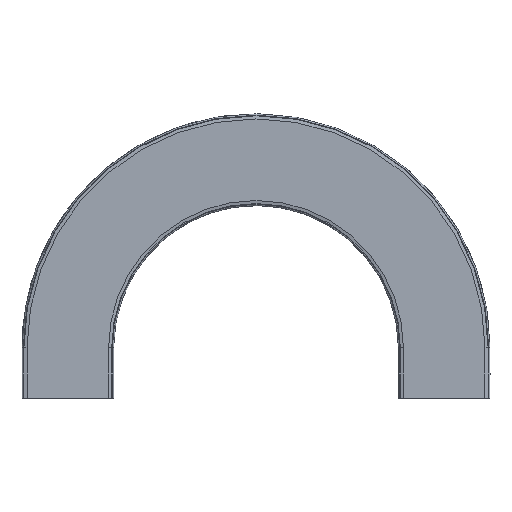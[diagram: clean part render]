
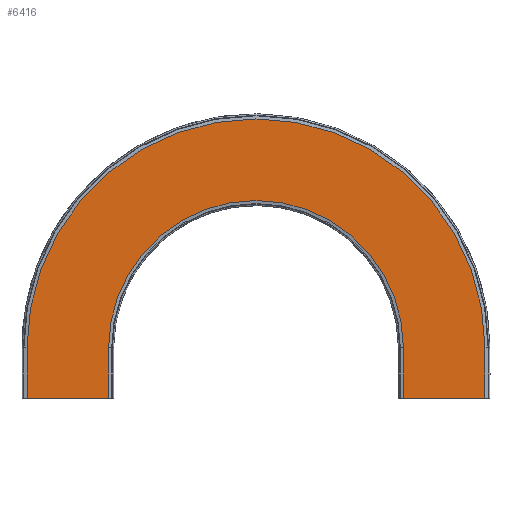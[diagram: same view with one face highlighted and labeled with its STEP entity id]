
A CAD part, front view. The second image highlights one B-rep face of the part: STEP entity #6416.
In plain terms, the highlighted planar face has unit normal (0, -1, 0).
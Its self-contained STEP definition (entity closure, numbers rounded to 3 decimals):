
#6173=CARTESIAN_POINT('',(104.,-74.,0.0));
#6174=VERTEX_POINT('',#6173);
#6181=CARTESIAN_POINT('',(-26.,-74.,0.0));
#6182=VERTEX_POINT('',#6181);
#6183=CARTESIAN_POINT('',(-26.,-74.,0.0));
#6184=DIRECTION('',(1.0,0.0,0.0));
#6185=VECTOR('',#6184,130.);
#6186=LINE('',#6183,#6185);
#6187=EDGE_CURVE('',#6182,#6174,#6186,.T.);
#6242=CARTESIAN_POINT('',(-26.,-74.,80.0));
#6243=VERTEX_POINT('',#6242);
#6252=CARTESIAN_POINT('',(-26.,-74.,0.0));
#6253=DIRECTION('',(0.0,0.0,1.0));
#6254=VECTOR('',#6253,80.0);
#6255=LINE('',#6252,#6254);
#6256=EDGE_CURVE('',#6182,#6243,#6255,.T.);
#6266=CARTESIAN_POINT('',(104.,-74.,80.0));
#6267=VERTEX_POINT('',#6266);
#6276=CARTESIAN_POINT('',(104.,-74.,0.0));
#6277=DIRECTION('',(0.0,0.0,1.0));
#6278=VECTOR('',#6277,80.0);
#6279=LINE('',#6276,#6278);
#6280=EDGE_CURVE('',#6174,#6267,#6279,.T.);
#6299=CARTESIAN_POINT('',(-496.,-74.,80.));
#6300=VERTEX_POINT('',#6299);
#6315=CARTESIAN_POINT('',(-261.,-74.,80.0));
#6316=DIRECTION('',(0.0,-1.0,0.0));
#6317=DIRECTION('',(1.0,0.0,0.0));
#6318=AXIS2_PLACEMENT_3D('',#6315,#6316,#6317);
#6319=CIRCLE('',#6318,235.);
#6320=EDGE_CURVE('',#6243,#6300,#6319,.T.);
#6374=CARTESIAN_POINT('',(-626.,-74.,1102.478));
#6375=DIRECTION('',(0.0,-1.0,0.0));
#6376=DIRECTION('',(0.0,0.0,1.0));
#6377=AXIS2_PLACEMENT_3D('',#6374,#6375,#6376);
#6378=PLANE('',#6377);
#6379=CARTESIAN_POINT('',(-626.,-74.,0.));
#6380=VERTEX_POINT('',#6379);
#6381=CARTESIAN_POINT('',(-496.,-74.,0.));
#6382=VERTEX_POINT('',#6381);
#6383=CARTESIAN_POINT('',(-626.,-74.,0.));
#6384=DIRECTION('',(1.0,0.0,0.0));
#6385=VECTOR('',#6384,130.);
#6386=LINE('',#6383,#6385);
#6387=EDGE_CURVE('',#6380,#6382,#6386,.T.);
#6388=ORIENTED_EDGE('',*,*,#6387,.T.);
#6389=CARTESIAN_POINT('',(-496.,-74.,80.0));
#6390=DIRECTION('',(0.0,0.0,-1.0));
#6391=VECTOR('',#6390,80.0);
#6392=LINE('',#6389,#6391);
#6393=EDGE_CURVE('',#6300,#6382,#6392,.T.);
#6394=ORIENTED_EDGE('',*,*,#6393,.F.);
#6395=ORIENTED_EDGE('',*,*,#6320,.F.);
#6396=ORIENTED_EDGE('',*,*,#6256,.F.);
#6397=ORIENTED_EDGE('',*,*,#6187,.T.);
#6398=ORIENTED_EDGE('',*,*,#6280,.T.);
#6399=CARTESIAN_POINT('',(-626.,-74.,80.));
#6400=VERTEX_POINT('',#6399);
#6401=CARTESIAN_POINT('',(-261.,-74.,80.0));
#6402=DIRECTION('',(0.0,-1.0,0.0));
#6403=DIRECTION('',(1.0,0.0,0.0));
#6404=AXIS2_PLACEMENT_3D('',#6401,#6402,#6403);
#6405=CIRCLE('',#6404,365.);
#6406=EDGE_CURVE('',#6267,#6400,#6405,.T.);
#6407=ORIENTED_EDGE('',*,*,#6406,.T.);
#6408=CARTESIAN_POINT('',(-626.,-74.,80.0));
#6409=DIRECTION('',(0.0,0.0,-1.0));
#6410=VECTOR('',#6409,80.0);
#6411=LINE('',#6408,#6410);
#6412=EDGE_CURVE('',#6400,#6380,#6411,.T.);
#6413=ORIENTED_EDGE('',*,*,#6412,.T.);
#6414=EDGE_LOOP('',(#6388,#6394,#6395,#6396,#6397,#6398,#6407,#6413));
#6415=FACE_OUTER_BOUND('',#6414,.T.);
#6416=ADVANCED_FACE('',(#6415),#6378,.T.);
